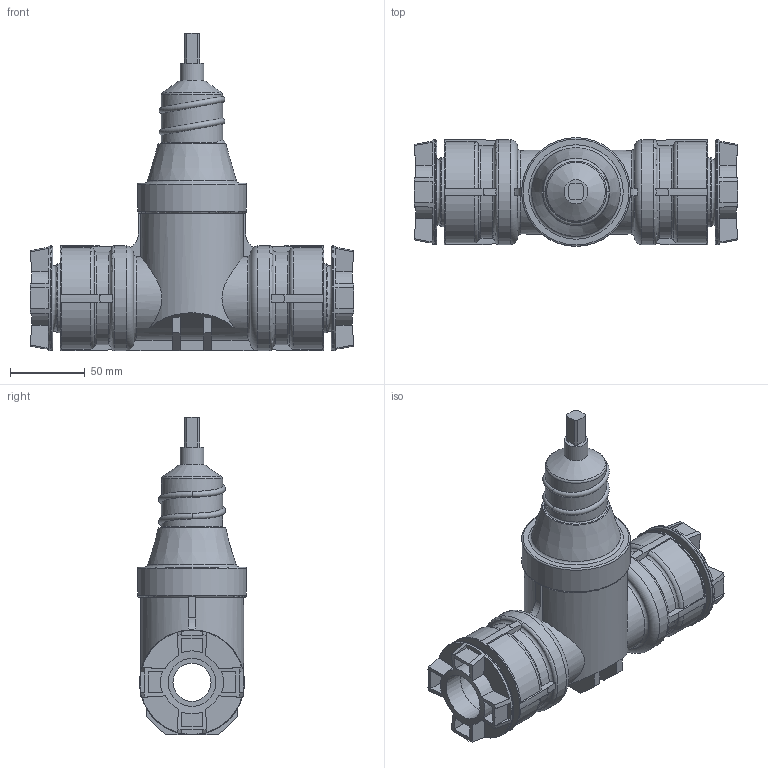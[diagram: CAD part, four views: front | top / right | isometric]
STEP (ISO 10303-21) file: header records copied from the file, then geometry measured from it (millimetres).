
FILE_DESCRIPTION( ( 'STEP AP203' ), '1' );
FILE_NAME( 'p:/temp/worker_205/temp/exporttempdir_1184_224_e1tQ9/format_0/5003290 2631 DN1 (400).stp', '2021-01-13T08:25:09', ( 'License CC BY-ND 4.0' ), ( 'CADENAS' ), ' ', 'PARTsolutions', ' ' );
FILE_SCHEMA( ( 'CONFIG_CONTROL_DESIGN' ) );
Length unit declared in the file: millimetre
Products named in the file (1): _5003290 2631 DN1 (400)
Bounding box: 216 x 72.6 x 212 mm (x, y, z)
Volume: 790136.5 mm3; surface area: 117395.9 mm2
Topology: 1 solids, 1 shells, 292 faces, 799 edges, 524 vertices
Faces by surface type: plane 171, cylinder 64, torus 49, cone 8
Full cylindrical faces by diameter (mm): 16 x1, 25.4 x1, 32 x4, 40.84 x2, 46 x2, 70 x6, 72.6 x1
Entity records: 10514 total; most frequent: CARTESIAN_POINT 3578, ORIENTED_EDGE 1482, DIRECTION 1322, EDGE_CURVE 741, VERTEX_POINT 508, AXIS2_PLACEMENT_3D 502, EDGE_LOOP 347, FACE_OUTER_BOUND 320
